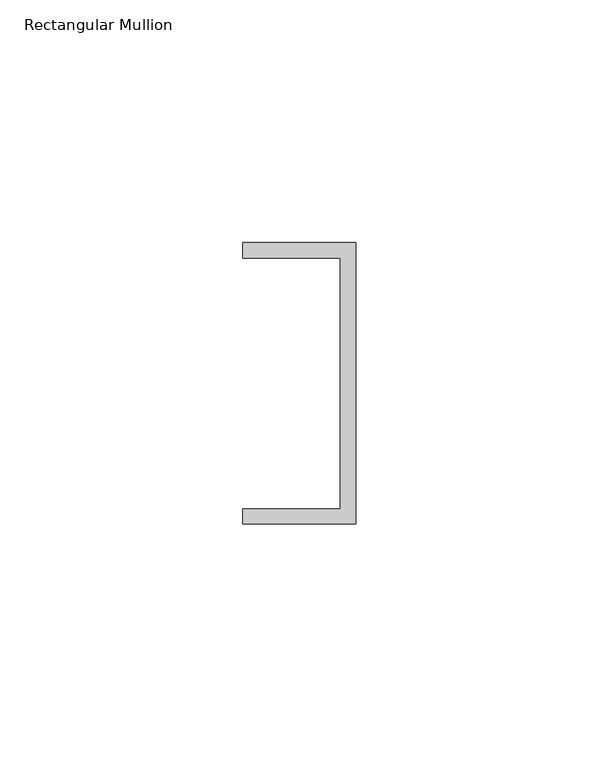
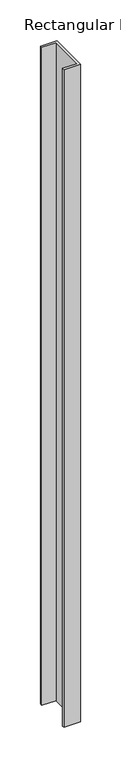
"""IFC4 building model written with IfcOpenShell, lengths in millimetres: member geometry, Rectangular Mullion : Frame-Teknion-Altos-Base_Channel."""

from ifc_helpers import new_model, si_unit, frame, origin, place, context, project, spatial, polyline, outline, extrude, source, transform, mapped, element, save


def rectangular_mullion_6b0b23d2(model_context):
    return source(origin(), model_context, "Body", "SweptSolid", [
        extrude(outline(polyline([(0.0, 29.0214844), (0.0, -29.0214844), (-23.3164063, -29.0214844), (-23.3164063, -25.8464844), (-3.175, -25.8464844), (-3.175, 25.8464844), (-23.3164063, 25.8464844), (-23.3164063, 29.0214844), (0.0, 29.0214844)])), frame((0.0, 0.0, -988.0203125), z_axis=(0.0, 0.0, 1.0), x_axis=(1.0, 0.0, 0.0)), (0.0, 0.0, 1.0), 988.0203125),
    ])


if __name__ == "__main__":
    model = new_model("IFC4")
    model_context = context("Model", 3, world=origin())
    ifc_project = project(units=[si_unit("LENGTHUNIT", "METRE", prefix="MILLI")], contexts=[model_context])
    site = spatial("IfcSite", under=ifc_project)
    building = spatial("IfcBuilding", under=site)
    placement = place(None, origin())
    rectangular_mullion_shape = rectangular_mullion_6b0b23d2(model_context)
    element("IfcMember", 1, ObjectType="Rectangular Mullion : Frame-Teknion-Altos-Base_Channel", at=placement, inside=building, context=model_context, shape_type="MappedRepresentation", body=[
        mapped(rectangular_mullion_shape, transform((0.0, 0.0, 0.0), x_axis=(1.0, 0.0, 0.0), y_axis=(0.0, 1.0, 0.0), z_axis=(0.0, 0.0, 1.0))),
    ])
    save(model, "model.ifc")
